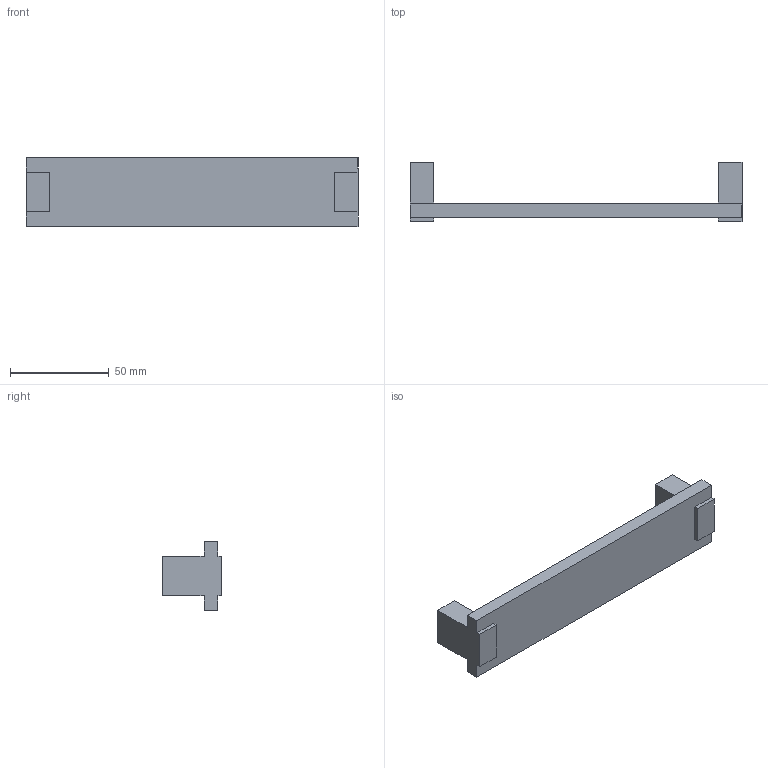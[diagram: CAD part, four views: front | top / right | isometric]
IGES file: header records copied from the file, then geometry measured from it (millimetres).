
Start section: Data from Parasolid IGES Translator 15.0.47, Copyright(c) 2006 Siemens P LM Software. All Rights Reserved.
Global section: file name: 9113522.igs; native system:  By UGS Corp.; preprocessor: XPlus GENERIC/IGES 3.0; author: Noname; organization: Noname; date: 20140122.164346; units: millimetre
Bounding box: 168 x 30 x 35 mm (x, y, z)
Surface area: 17656.4 mm2 (no closed solid volume)
Topology: 0 solids, 0 shells, 26 faces, 132 edges, 130 vertices
Faces by surface type: extrusion 24, revolution 2
